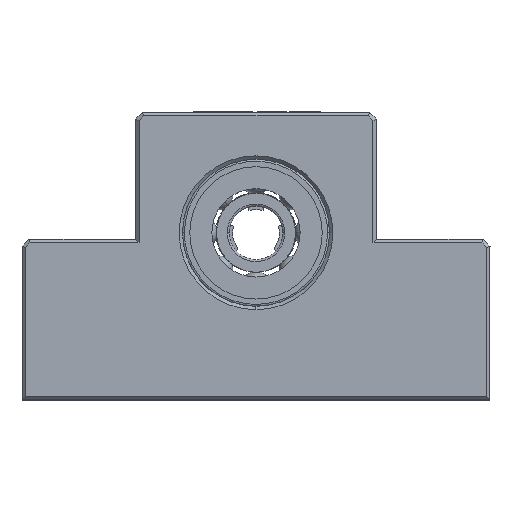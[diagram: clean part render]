
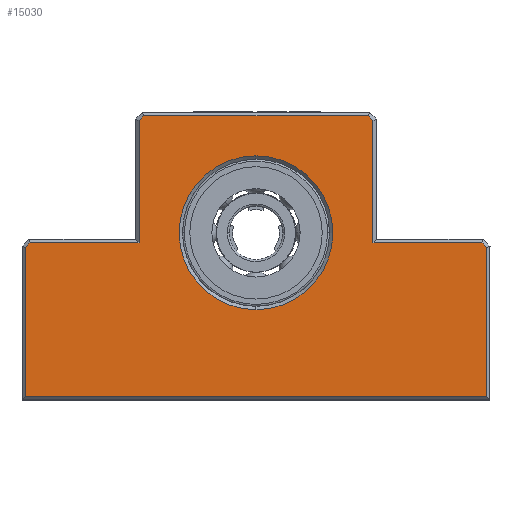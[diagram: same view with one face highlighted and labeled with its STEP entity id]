
A CAD part, top view. The second image highlights one B-rep face of the part: STEP entity #15030.
In plain terms, the highlighted planar face has unit normal (0, 0, 1).
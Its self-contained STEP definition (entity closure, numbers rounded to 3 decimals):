
#166 = CARTESIAN_POINT ( 'NONE',  ( 5.819, -3.551, 10. ) ) ;
#193 = CARTESIAN_POINT ( 'NONE',  ( -29.601, -28.051, 10. ) ) ;
#820 = VERTEX_POINT ( 'NONE', #2520 ) ;
#1021 = EDGE_CURVE ( 'NONE', #14558, #10450, #5536, .T. ) ;
#1433 = ORIENTED_EDGE ( 'NONE', *, *, #3780, .T. ) ;
#1732 = ORIENTED_EDGE ( 'NONE', *, *, #8681, .F. ) ;
#1738 = VECTOR ( 'NONE', #12573, 1000. ) ;
#1758 = VERTEX_POINT ( 'NONE', #11280 ) ;
#2029 = CARTESIAN_POINT ( 'NONE',  ( -11.681, -5.051, 10. ) ) ;
#2129 = AXIS2_PLACEMENT_3D ( 'NONE', #4722, #10817, #13415 ) ;
#2161 = EDGE_CURVE ( 'NONE', #9410, #2571, #14520, .T. ) ;
#2366 = EDGE_CURVE ( 'NONE', #3209, #820, #11065, .T. ) ;
#2513 = DIRECTION ( 'NONE',  ( 1., 0., 0. ) ) ;
#2515 = CARTESIAN_POINT ( 'NONE',  ( 22.612, 13.949, 10. ) ) ;
#2520 = CARTESIAN_POINT ( 'NONE',  ( 23.319, -5.051, 10. ) ) ;
#2571 = VERTEX_POINT ( 'NONE', #13703 ) ;
#2611 = CARTESIAN_POINT ( 'NONE',  ( 23.319, -5.162, 10. ) ) ;
#2756 = ORIENTED_EDGE ( 'NONE', *, *, #13709, .F. ) ;
#2903 = VECTOR ( 'NONE', #4887, 1000. ) ;
#3005 = ORIENTED_EDGE ( 'NONE', *, *, #15171, .F. ) ;
#3089 = VERTEX_POINT ( 'NONE', #3597 ) ;
#3209 = VERTEX_POINT ( 'NONE', #11066 ) ;
#3239 = DIRECTION ( 'NONE',  ( 1., 0., 0. ) ) ;
#3250 = LINE ( 'NONE', #8404, #7649 ) ;
#3388 = VERTEX_POINT ( 'NONE', #7204 ) ;
#3449 = EDGE_CURVE ( 'NONE', #3089, #10188, #3581, .T. ) ;
#3516 = EDGE_CURVE ( 'NONE', #9410, #13080, #14749, .T. ) ;
#3581 = LINE ( 'NONE', #8490, #5789 ) ;
#3597 = CARTESIAN_POINT ( 'NONE',  ( -10.974, 13.949, 10. ) ) ;
#3672 = DIRECTION ( 'NONE',  ( -1., 0., 0. ) ) ;
#3691 = CIRCLE ( 'NONE', #2129, 11.5 ) ;
#3780 = EDGE_CURVE ( 'NONE', #5172, #9594, #13534, .T. ) ;
#3890 = CARTESIAN_POINT ( 'NONE',  ( -28.681, -28.051, 10. ) ) ;
#3933 = DIRECTION ( 'NONE',  ( -0.707, 0.707, 0. ) ) ;
#4005 = VECTOR ( 'NONE', #6405, 1000. ) ;
#4097 = ORIENTED_EDGE ( 'NONE', *, *, #10827, .F. ) ;
#4109 = CARTESIAN_POINT ( 'NONE',  ( 40.319, -5.758, 10. ) ) ;
#4408 = ORIENTED_EDGE ( 'NONE', *, *, #2161, .T. ) ;
#4444 = LINE ( 'NONE', #9350, #8313 ) ;
#4722 = CARTESIAN_POINT ( 'NONE',  ( 5.819, -3.551, 10. ) ) ;
#4873 = CARTESIAN_POINT ( 'NONE',  ( -28.28, -5.051, 10. ) ) ;
#4887 = DIRECTION ( 'NONE',  ( 0., 1., 0. ) ) ;
#5109 = PLANE ( 'NONE',  #9068 ) ;
#5172 = VERTEX_POINT ( 'NONE', #4109 ) ;
#5274 = ORIENTED_EDGE ( 'NONE', *, *, #2366, .F. ) ;
#5536 = CIRCLE ( 'NONE', #6052, 11.5 ) ;
#5789 = VECTOR ( 'NONE', #13399, 1000. ) ;
#5997 = DIRECTION ( 'NONE',  ( 0., -1., 0. ) ) ;
#6052 = AXIS2_PLACEMENT_3D ( 'NONE', #166, #13540, #6531 ) ;
#6158 = FACE_OUTER_BOUND ( 'NONE', #6985, .T. ) ;
#6405 = DIRECTION ( 'NONE',  ( 0., -1., 0. ) ) ;
#6531 = DIRECTION ( 'NONE',  ( 0., -1., 0. ) ) ;
#6985 = EDGE_LOOP ( 'NONE', ( #15518, #2756, #10165, #4408, #8850, #1732, #15460, #1433, #3005, #5274, #4097, #12897 ) ) ;
#7204 = CARTESIAN_POINT ( 'NONE',  ( -11.681, 13.242, 10. ) ) ;
#7389 = DIRECTION ( 'NONE',  ( 0.707, -0.707, 0. ) ) ;
#7601 = LINE ( 'NONE', #193, #15089 ) ;
#7649 = VECTOR ( 'NONE', #13319, 1000. ) ;
#7728 = CARTESIAN_POINT ( 'NONE',  ( -11.681, -5.162, 10. ) ) ;
#8313 = VECTOR ( 'NONE', #3239, 1000. ) ;
#8404 = CARTESIAN_POINT ( 'NONE',  ( -10.974, 13.949, 10. ) ) ;
#8490 = CARTESIAN_POINT ( 'NONE',  ( -11.385, 13.949, 10. ) ) ;
#8681 = EDGE_CURVE ( 'NONE', #1758, #11727, #7601, .T. ) ;
#8790 = DIRECTION ( 'NONE',  ( 0., 0., 1. ) ) ;
#8850 = ORIENTED_EDGE ( 'NONE', *, *, #15750, .F. ) ;
#9068 = AXIS2_PLACEMENT_3D ( 'NONE', #3890, #8790, #13721 ) ;
#9350 = CARTESIAN_POINT ( 'NONE',  ( 23.22, -5.051, 10. ) ) ;
#9410 = VERTEX_POINT ( 'NONE', #11329 ) ;
#9442 = CARTESIAN_POINT ( 'NONE',  ( 40.319, -28.689, 10. ) ) ;
#9519 = CARTESIAN_POINT ( 'NONE',  ( -28.681, -28.689, 10. ) ) ;
#9594 = VERTEX_POINT ( 'NONE', #14129 ) ;
#9932 = EDGE_CURVE ( 'NONE', #3089, #3388, #3250, .T. ) ;
#10165 = ORIENTED_EDGE ( 'NONE', *, *, #3516, .F. ) ;
#10188 = VERTEX_POINT ( 'NONE', #2515 ) ;
#10447 = CARTESIAN_POINT ( 'NONE',  ( 5.819, -15.051, 10. ) ) ;
#10450 = VERTEX_POINT ( 'NONE', #13686 ) ;
#10682 = VECTOR ( 'NONE', #12280, 1000. ) ;
#10736 = LINE ( 'NONE', #9442, #14475 ) ;
#10817 = DIRECTION ( 'NONE',  ( 0., 0., -1. ) ) ;
#10827 = EDGE_CURVE ( 'NONE', #10188, #3209, #13592, .T. ) ;
#11065 = LINE ( 'NONE', #2611, #4005 ) ;
#11066 = CARTESIAN_POINT ( 'NONE',  ( 23.319, 13.242, 10. ) ) ;
#11218 = FACE_BOUND ( 'NONE', #13260, .T. ) ;
#11280 = CARTESIAN_POINT ( 'NONE',  ( 40.319, -28.051, 10. ) ) ;
#11329 = CARTESIAN_POINT ( 'NONE',  ( -27.974, -5.051, 10. ) ) ;
#11410 = VECTOR ( 'NONE', #3933, 1000. ) ;
#11727 = VERTEX_POINT ( 'NONE', #13909 ) ;
#12042 = CARTESIAN_POINT ( 'NONE',  ( -27.974, -5.051, 10. ) ) ;
#12073 = VECTOR ( 'NONE', #7389, 1000. ) ;
#12176 = CARTESIAN_POINT ( 'NONE',  ( 40.319, -5.758, 10. ) ) ;
#12280 = DIRECTION ( 'NONE',  ( -0.707, -0.707, 0. ) ) ;
#12573 = DIRECTION ( 'NONE',  ( 0., 1., 0. ) ) ;
#12897 = ORIENTED_EDGE ( 'NONE', *, *, #3449, .F. ) ;
#13021 = ORIENTED_EDGE ( 'NONE', *, *, #1021, .T. ) ;
#13080 = VERTEX_POINT ( 'NONE', #2029 ) ;
#13260 = EDGE_LOOP ( 'NONE', ( #13021, #15233 ) ) ;
#13319 = DIRECTION ( 'NONE',  ( -0.707, -0.707, 0. ) ) ;
#13399 = DIRECTION ( 'NONE',  ( 1., 0., 0. ) ) ;
#13415 = DIRECTION ( 'NONE',  ( 0., -1., 0. ) ) ;
#13519 = CARTESIAN_POINT ( 'NONE',  ( 22.612, 13.949, 10. ) ) ;
#13534 = LINE ( 'NONE', #12176, #11410 ) ;
#13540 = DIRECTION ( 'NONE',  ( 0., 0., -1. ) ) ;
#13592 = LINE ( 'NONE', #13519, #12073 ) ;
#13686 = CARTESIAN_POINT ( 'NONE',  ( 5.819, 7.949, 10. ) ) ;
#13703 = CARTESIAN_POINT ( 'NONE',  ( -28.681, -5.758, 10. ) ) ;
#13709 = EDGE_CURVE ( 'NONE', #13080, #3388, #14898, .T. ) ;
#13721 = DIRECTION ( 'NONE',  ( 1., 0., 0. ) ) ;
#13765 = VECTOR ( 'NONE', #2513, 1000. ) ;
#13909 = CARTESIAN_POINT ( 'NONE',  ( -28.681, -28.051, 10. ) ) ;
#14129 = CARTESIAN_POINT ( 'NONE',  ( 39.612, -5.051, 10. ) ) ;
#14374 = LINE ( 'NONE', #9519, #2903 ) ;
#14475 = VECTOR ( 'NONE', #5997, 1000. ) ;
#14520 = LINE ( 'NONE', #12042, #10682 ) ;
#14558 = VERTEX_POINT ( 'NONE', #10447 ) ;
#14749 = LINE ( 'NONE', #4873, #13765 ) ;
#14898 = LINE ( 'NONE', #7728, #1738 ) ;
#15030 = ADVANCED_FACE ( 'NONE', ( #11218, #6158 ), #5109, .T. ) ;
#15089 = VECTOR ( 'NONE', #3672, 1000. ) ;
#15171 = EDGE_CURVE ( 'NONE', #820, #9594, #4444, .T. ) ;
#15233 = ORIENTED_EDGE ( 'NONE', *, *, #15863, .T. ) ;
#15460 = ORIENTED_EDGE ( 'NONE', *, *, #15845, .F. ) ;
#15518 = ORIENTED_EDGE ( 'NONE', *, *, #9932, .T. ) ;
#15750 = EDGE_CURVE ( 'NONE', #11727, #2571, #14374, .T. ) ;
#15845 = EDGE_CURVE ( 'NONE', #5172, #1758, #10736, .T. ) ;
#15863 = EDGE_CURVE ( 'NONE', #10450, #14558, #3691, .T. ) ;
